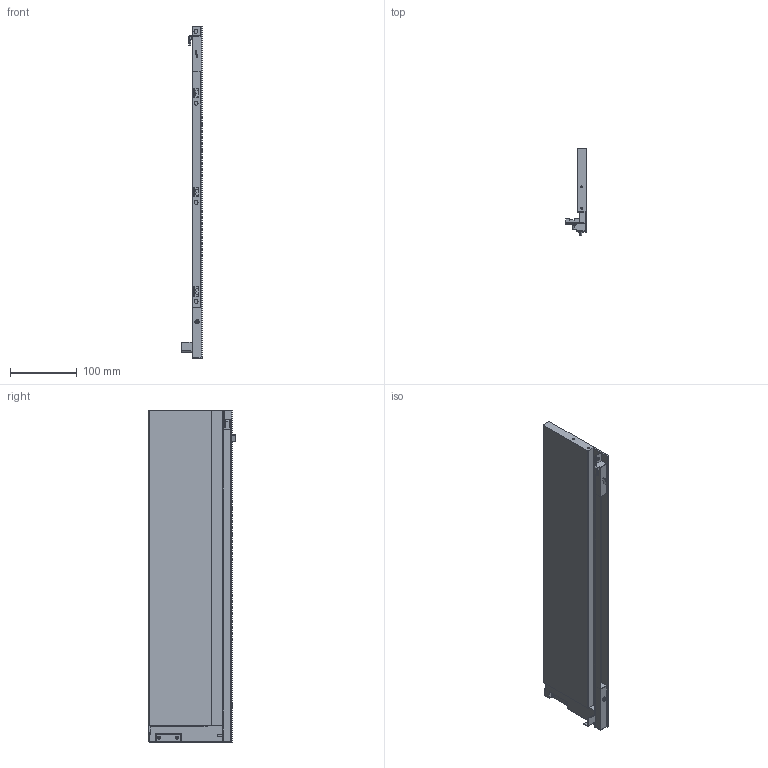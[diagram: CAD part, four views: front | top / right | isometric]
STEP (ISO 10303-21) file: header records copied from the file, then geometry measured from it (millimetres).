
FILE_DESCRIPTION (( 'STEP AP203' ), '1' );
FILE_NAME ('HT125001-R.STEP', '2021-03-16T02:23:38', ( 'Users' ), ( 'Microsoft' ), 'SwSTEP 2.0', 'SolidWorks 2018', '' );
FILE_SCHEMA (( 'CONFIG_CONTROL_DESIGN' ));
Length unit declared in the file: millimetre
Products named in the file (1): HT125001-R
Bounding box: 31.3 x 131 x 499 mm (x, y, z)
Volume: 672462.2 mm3; surface area: 166190.1 mm2
Topology: 1 solids, 8 shells, 402 faces, 1019 edges, 633 vertices
Faces by surface type: plane 199, cylinder 139, torus 29, bspline 23, cone 6, sphere 6
Entity records: 12552 total; most frequent: CARTESIAN_POINT 2950, ORIENTED_EDGE 2020, DIRECTION 1947, EDGE_CURVE 1010, AXIS2_PLACEMENT_3D 660, VERTEX_POINT 633, VECTOR 627, LINE 627
